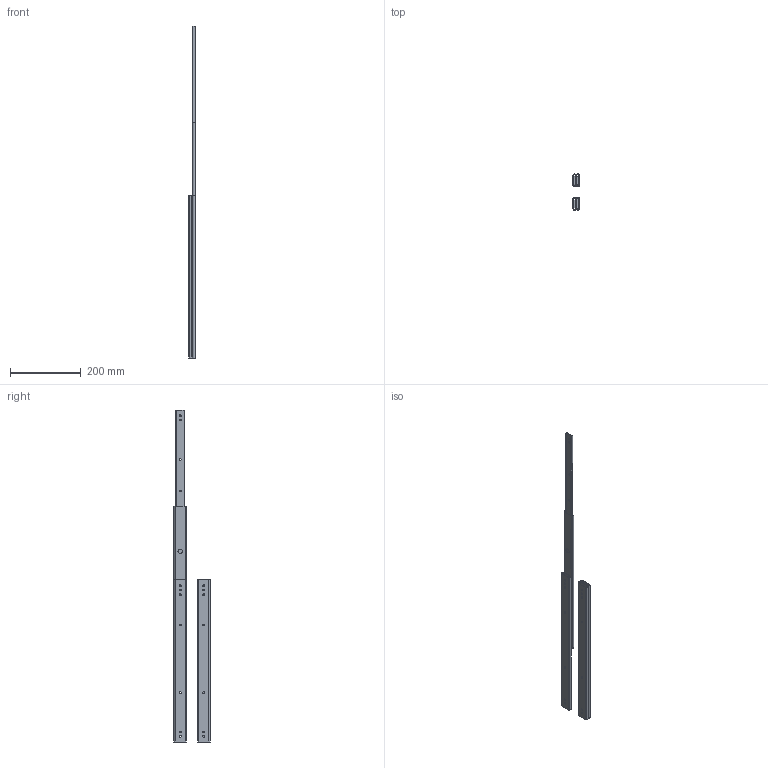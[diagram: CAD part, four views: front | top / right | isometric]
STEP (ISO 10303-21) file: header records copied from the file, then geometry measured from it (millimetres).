
FILE_DESCRIPTION((''),'2;1');
FILE_NAME('R:\Engineering\Distribution Website 3D\0305\DZ0305-00\STEP\DZ0305-0018 Open & Closed Internet Version (a).stp','2006-11-22T14:23:29',('mbignel'),(''),'Autodesk Inventor 11','Autodesk Inventor 11','');
FILE_SCHEMA(('AUTOMOTIVE_DESIGN { 1 0 10303 214 1 1 1 1 }'));
Length unit declared in the file: millimetre
Products named in the file (3): DZ0305-0018 Open & Closed Internet Version (a); DZ0305-0018 Closed Internet Version (a); DZ0305-0018 Open Internet Version (a)
Assembly tree (2 placements, depth 2):
  DZ0305-0018 Open & Closed Internet Version (a)
    DZ0305-0018 Closed Internet Version (a)
    DZ0305-0018 Open Internet Version (a)
Bounding box: 19.1 x 101.7 x 936.5 mm (x, y, z)
Volume: 184814.4 mm3; surface area: 248340.1 mm2
Topology: 5 solids, 5 shells, 221 faces, 636 edges, 424 vertices
Faces by surface type: plane 147, cylinder 74
Full cylindrical faces by diameter (mm): 12.7 x2
Entity records: 7425 total; most frequent: CARTESIAN_POINT 1284, ORIENTED_EDGE 1268, DIRECTION 1234, EDGE_CURVE 634, VECTOR 486, LINE 486, VERTEX_POINT 424, AXIS2_PLACEMENT_3D 374
